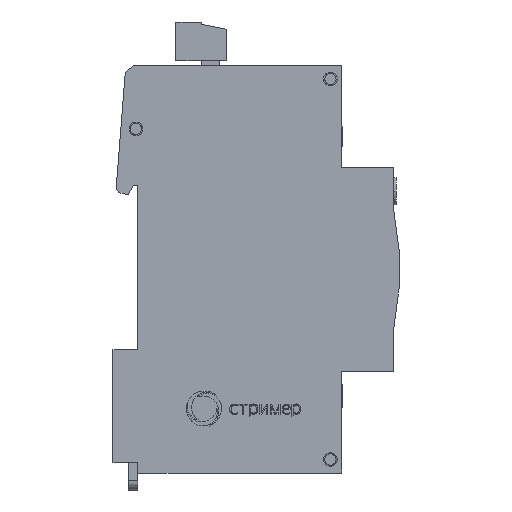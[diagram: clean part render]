
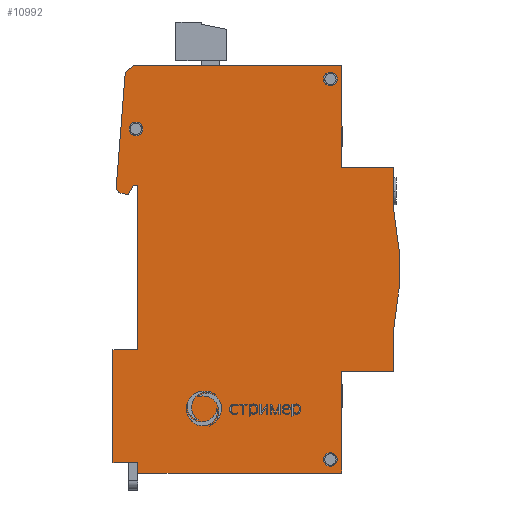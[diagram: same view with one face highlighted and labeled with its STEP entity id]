
A CAD part, front view. The second image highlights one B-rep face of the part: STEP entity #10992.
In plain terms, the highlighted planar face has unit normal (0, -1, 0).
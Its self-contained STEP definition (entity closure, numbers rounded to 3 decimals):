
#9392=CARTESIAN_POINT('',(-14.5,-13.5,-42.75));
#9393=VERTEX_POINT('',#9392);
#9400=CARTESIAN_POINT('',(-20.,-13.5,-42.75));
#9401=VERTEX_POINT('',#9400);
#9402=CARTESIAN_POINT('',(-20.,-13.5,-42.75));
#9403=DIRECTION('',(1.,0.,-0.));
#9404=VECTOR('',#9403,5.5);
#9405=LINE('',#9402,#9404);
#9406=EDGE_CURVE('',#9401,#9393,#9405,.T.);
#9610=CARTESIAN_POINT('',(-14.5,-13.5,-45.));
#9611=VERTEX_POINT('',#9610);
#9612=CARTESIAN_POINT('',(30.5,-13.5,-45.));
#9613=VERTEX_POINT('',#9612);
#9614=CARTESIAN_POINT('',(-14.5,-13.5,-45.));
#9615=DIRECTION('',(1.,0.,-0.));
#9616=VECTOR('',#9615,45.);
#9617=LINE('',#9614,#9616);
#9618=EDGE_CURVE('',#9611,#9613,#9617,.T.);
#9737=CARTESIAN_POINT('',(-14.5,-13.5,-17.75));
#9738=VERTEX_POINT('',#9737);
#9745=CARTESIAN_POINT('',(-14.5,-13.5,18.5));
#9746=VERTEX_POINT('',#9745);
#9747=CARTESIAN_POINT('',(-14.5,-13.5,18.5));
#9748=DIRECTION('',(0.,0.,-1.));
#9749=VECTOR('',#9748,36.25);
#9750=LINE('',#9747,#9749);
#9751=EDGE_CURVE('',#9746,#9738,#9750,.T.);
#9768=CARTESIAN_POINT('',(-14.5,-13.5,-42.75));
#9769=DIRECTION('',(0.,0.,-1.));
#9770=VECTOR('',#9769,2.25);
#9771=LINE('',#9768,#9770);
#9772=EDGE_CURVE('',#9393,#9611,#9771,.T.);
#9793=CARTESIAN_POINT('',(-17.29,-13.5,43.498));
#9794=VERTEX_POINT('',#9793);
#9801=CARTESIAN_POINT('',(-15.5,-13.5,45.));
#9802=VERTEX_POINT('',#9801);
#9803=CARTESIAN_POINT('',(-15.5,-13.5,45.));
#9804=DIRECTION('',(-0.766,0.,-0.643));
#9805=VECTOR('',#9804,2.337);
#9806=LINE('',#9803,#9805);
#9807=EDGE_CURVE('',#9802,#9794,#9806,.T.);
#9831=CARTESIAN_POINT('',(-19.273,-13.5,18.306));
#9832=VERTEX_POINT('',#9831);
#9839=CARTESIAN_POINT('',(-17.29,-13.5,43.498));
#9840=DIRECTION('',(-0.078,0.,-0.997));
#9841=VECTOR('',#9840,25.27);
#9842=LINE('',#9839,#9841);
#9843=EDGE_CURVE('',#9794,#9832,#9842,.T.);
#9863=CARTESIAN_POINT('',(-17.999,-13.5,16.704));
#9864=VERTEX_POINT('',#9863);
#9871=CARTESIAN_POINT('',(-17.777,-13.5,18.188));
#9872=DIRECTION('',(0.,-1.,0.));
#9873=DIRECTION('',(0.,0.,1.));
#9874=AXIS2_PLACEMENT_3D('',#9871,#9872,#9873);
#9875=CIRCLE('',#9874,1.5);
#9876=EDGE_CURVE('',#9832,#9864,#9875,.T.);
#9895=CARTESIAN_POINT('',(-16.632,-13.5,16.5));
#9896=VERTEX_POINT('',#9895);
#9903=CARTESIAN_POINT('',(-17.999,-13.5,16.704));
#9904=DIRECTION('',(0.989,0.,-0.148));
#9905=VECTOR('',#9904,1.383);
#9906=LINE('',#9903,#9905);
#9907=EDGE_CURVE('',#9864,#9896,#9906,.T.);
#9926=CARTESIAN_POINT('',(-15.5,-13.5,18.5));
#9927=VERTEX_POINT('',#9926);
#9934=CARTESIAN_POINT('',(-16.632,-13.5,16.5));
#9935=DIRECTION('',(0.492,0.,0.87));
#9936=VECTOR('',#9935,2.298);
#9937=LINE('',#9934,#9936);
#9938=EDGE_CURVE('',#9896,#9927,#9937,.T.);
#10116=CARTESIAN_POINT('',(-15.5,-13.5,18.5));
#10117=DIRECTION('',(1.,0.,0.));
#10118=VECTOR('',#10117,1.);
#10119=LINE('',#10116,#10118);
#10120=EDGE_CURVE('',#9927,#9746,#10119,.T.);
#10220=CARTESIAN_POINT('',(30.5,-13.5,-22.5));
#10221=VERTEX_POINT('',#10220);
#10222=CARTESIAN_POINT('',(30.5,-13.5,-45.));
#10223=DIRECTION('',(0.,0.,1.));
#10224=VECTOR('',#10223,22.5);
#10225=LINE('',#10222,#10224);
#10226=EDGE_CURVE('',#9613,#10221,#10225,.T.);
#10251=CARTESIAN_POINT('',(42.,-13.5,-22.5));
#10252=VERTEX_POINT('',#10251);
#10253=CARTESIAN_POINT('',(30.5,-13.5,-22.5));
#10254=DIRECTION('',(1.,0.,-0.));
#10255=VECTOR('',#10254,11.5);
#10256=LINE('',#10253,#10255);
#10257=EDGE_CURVE('',#10221,#10252,#10256,.T.);
#10282=CARTESIAN_POINT('',(42.,-13.5,-13.));
#10283=VERTEX_POINT('',#10282);
#10284=CARTESIAN_POINT('',(42.,-13.5,-22.5));
#10285=DIRECTION('',(0.,0.,1.));
#10286=VECTOR('',#10285,9.5);
#10287=LINE('',#10284,#10286);
#10288=EDGE_CURVE('',#10252,#10283,#10287,.T.);
#10313=CARTESIAN_POINT('',(42.,-13.5,13.));
#10314=VERTEX_POINT('',#10313);
#10315=CARTESIAN_POINT('',(-21.707,-13.5,0.));
#10316=DIRECTION('',(0.,-1.,0.));
#10317=DIRECTION('',(0.,0.,1.));
#10318=AXIS2_PLACEMENT_3D('',#10315,#10316,#10317);
#10319=CIRCLE('',#10318,65.02);
#10320=EDGE_CURVE('',#10283,#10314,#10319,.T.);
#10346=CARTESIAN_POINT('',(42.,-13.5,22.5));
#10347=VERTEX_POINT('',#10346);
#10348=CARTESIAN_POINT('',(42.,-13.5,13.));
#10349=DIRECTION('',(-0.,0.,1.));
#10350=VECTOR('',#10349,9.5);
#10351=LINE('',#10348,#10350);
#10352=EDGE_CURVE('',#10314,#10347,#10351,.T.);
#10377=CARTESIAN_POINT('',(30.5,-13.5,22.5));
#10378=VERTEX_POINT('',#10377);
#10379=CARTESIAN_POINT('',(42.,-13.5,22.5));
#10380=DIRECTION('',(-1.,0.,0.));
#10381=VECTOR('',#10380,11.5);
#10382=LINE('',#10379,#10381);
#10383=EDGE_CURVE('',#10347,#10378,#10382,.T.);
#10468=CARTESIAN_POINT('',(30.5,-13.5,45.));
#10469=VERTEX_POINT('',#10468);
#10470=CARTESIAN_POINT('',(30.5,-13.5,22.5));
#10471=DIRECTION('',(0.,0.,1.));
#10472=VECTOR('',#10471,22.5);
#10473=LINE('',#10470,#10472);
#10474=EDGE_CURVE('',#10378,#10469,#10473,.T.);
#10535=CARTESIAN_POINT('',(-14.94,-13.5,29.5));
#10536=VERTEX_POINT('',#10535);
#10543=CARTESIAN_POINT('',(-16.44,-13.5,31.));
#10544=VERTEX_POINT('',#10543);
#10545=CARTESIAN_POINT('',(-14.94,-13.5,31.));
#10546=DIRECTION('',(0.,-1.,0.));
#10547=DIRECTION('',(-1.,0.,0.));
#10548=AXIS2_PLACEMENT_3D('',#10545,#10546,#10547);
#10549=CIRCLE('',#10548,1.5);
#10550=EDGE_CURVE('',#10536,#10544,#10549,.T.);
#10609=CARTESIAN_POINT('',(28.,-13.5,40.5));
#10610=VERTEX_POINT('',#10609);
#10619=CARTESIAN_POINT('',(26.5,-13.5,42.));
#10620=VERTEX_POINT('',#10619);
#10621=CARTESIAN_POINT('',(28.,-13.5,42.));
#10622=DIRECTION('',(0.,-1.,0.));
#10623=DIRECTION('',(-1.,0.,0.));
#10624=AXIS2_PLACEMENT_3D('',#10621,#10622,#10623);
#10625=CIRCLE('',#10624,1.5);
#10626=EDGE_CURVE('',#10610,#10620,#10625,.T.);
#10651=CARTESIAN_POINT('',(28.,-13.5,-43.5));
#10652=VERTEX_POINT('',#10651);
#10661=CARTESIAN_POINT('',(26.5,-13.5,-42.));
#10662=VERTEX_POINT('',#10661);
#10663=CARTESIAN_POINT('',(28.,-13.5,-42.));
#10664=DIRECTION('',(0.,-1.,0.));
#10665=DIRECTION('',(-1.,0.,0.));
#10666=AXIS2_PLACEMENT_3D('',#10663,#10664,#10665);
#10667=CIRCLE('',#10666,1.5);
#10668=EDGE_CURVE('',#10652,#10662,#10667,.T.);
#10838=CARTESIAN_POINT('',(30.5,-13.5,45.));
#10839=DIRECTION('',(-1.,0.,0.));
#10840=VECTOR('',#10839,46.);
#10841=LINE('',#10838,#10840);
#10842=EDGE_CURVE('',#10469,#9802,#10841,.T.);
#10923=CARTESIAN_POINT('',(0.,-13.5,0.));
#10924=DIRECTION('',(0.,-1.,0.));
#10925=DIRECTION('',(0.,0.,1.));
#10926=AXIS2_PLACEMENT_3D('',#10923,#10924,#10925);
#10927=PLANE('',#10926);
#10928=ORIENTED_EDGE('',*,*,#10120,.T.);
#10929=ORIENTED_EDGE('',*,*,#9751,.T.);
#10930=CARTESIAN_POINT('',(-20.,-13.5,-17.75));
#10931=VERTEX_POINT('',#10930);
#10932=CARTESIAN_POINT('',(-20.,-13.5,-17.75));
#10933=DIRECTION('',(1.,0.,-0.));
#10934=VECTOR('',#10933,5.5);
#10935=LINE('',#10932,#10934);
#10936=EDGE_CURVE('',#10931,#9738,#10935,.T.);
#10937=ORIENTED_EDGE('',*,*,#10936,.F.);
#10938=CARTESIAN_POINT('',(-20.,-13.5,-17.75));
#10939=DIRECTION('',(0.,-0.,-1.));
#10940=VECTOR('',#10939,25.);
#10941=LINE('',#10938,#10940);
#10942=EDGE_CURVE('',#10931,#9401,#10941,.T.);
#10943=ORIENTED_EDGE('',*,*,#10942,.T.);
#10944=ORIENTED_EDGE('',*,*,#9406,.T.);
#10945=ORIENTED_EDGE('',*,*,#9772,.T.);
#10946=ORIENTED_EDGE('',*,*,#9618,.T.);
#10947=ORIENTED_EDGE('',*,*,#10226,.T.);
#10948=ORIENTED_EDGE('',*,*,#10257,.T.);
#10949=ORIENTED_EDGE('',*,*,#10288,.T.);
#10950=ORIENTED_EDGE('',*,*,#10320,.T.);
#10951=ORIENTED_EDGE('',*,*,#10352,.T.);
#10952=ORIENTED_EDGE('',*,*,#10383,.T.);
#10953=ORIENTED_EDGE('',*,*,#10474,.T.);
#10954=ORIENTED_EDGE('',*,*,#10842,.T.);
#10955=ORIENTED_EDGE('',*,*,#9807,.T.);
#10956=ORIENTED_EDGE('',*,*,#9843,.T.);
#10957=ORIENTED_EDGE('',*,*,#9876,.T.);
#10958=ORIENTED_EDGE('',*,*,#9907,.T.);
#10959=ORIENTED_EDGE('',*,*,#9938,.T.);
#10960=EDGE_LOOP('',(#10928,#10929,#10937,#10943,#10944,#10945,#10946,#10947,#10948,#10949,#10950,#10951,#10952,#10953,#10954,#10955,#10956,#10957,#10958,#10959));
#10961=FACE_BOUND('',#10960,.T.);
#10962=ORIENTED_EDGE('',*,*,#10668,.F.);
#10963=CARTESIAN_POINT('',(28.,-13.5,-42.));
#10964=DIRECTION('',(0.,-1.,0.));
#10965=DIRECTION('',(-1.,0.,0.));
#10966=AXIS2_PLACEMENT_3D('',#10963,#10964,#10965);
#10967=CIRCLE('',#10966,1.5);
#10968=EDGE_CURVE('',#10662,#10652,#10967,.T.);
#10969=ORIENTED_EDGE('',*,*,#10968,.F.);
#10970=EDGE_LOOP('',(#10962,#10969));
#10971=FACE_BOUND('',#10970,.T.);
#10972=ORIENTED_EDGE('',*,*,#10626,.F.);
#10973=CARTESIAN_POINT('',(28.,-13.5,42.));
#10974=DIRECTION('',(0.,-1.,0.));
#10975=DIRECTION('',(-1.,0.,0.));
#10976=AXIS2_PLACEMENT_3D('',#10973,#10974,#10975);
#10977=CIRCLE('',#10976,1.5);
#10978=EDGE_CURVE('',#10620,#10610,#10977,.T.);
#10979=ORIENTED_EDGE('',*,*,#10978,.F.);
#10980=EDGE_LOOP('',(#10972,#10979));
#10981=FACE_BOUND('',#10980,.T.);
#10982=ORIENTED_EDGE('',*,*,#10550,.F.);
#10983=CARTESIAN_POINT('',(-14.94,-13.5,31.));
#10984=DIRECTION('',(0.,-1.,0.));
#10985=DIRECTION('',(-1.,0.,0.));
#10986=AXIS2_PLACEMENT_3D('',#10983,#10984,#10985);
#10987=CIRCLE('',#10986,1.5);
#10988=EDGE_CURVE('',#10544,#10536,#10987,.T.);
#10989=ORIENTED_EDGE('',*,*,#10988,.F.);
#10990=EDGE_LOOP('',(#10982,#10989));
#10991=FACE_BOUND('',#10990,.T.);
#10992=ADVANCED_FACE('',(#10961,#10971,#10981,#10991),#10927,.T.);
